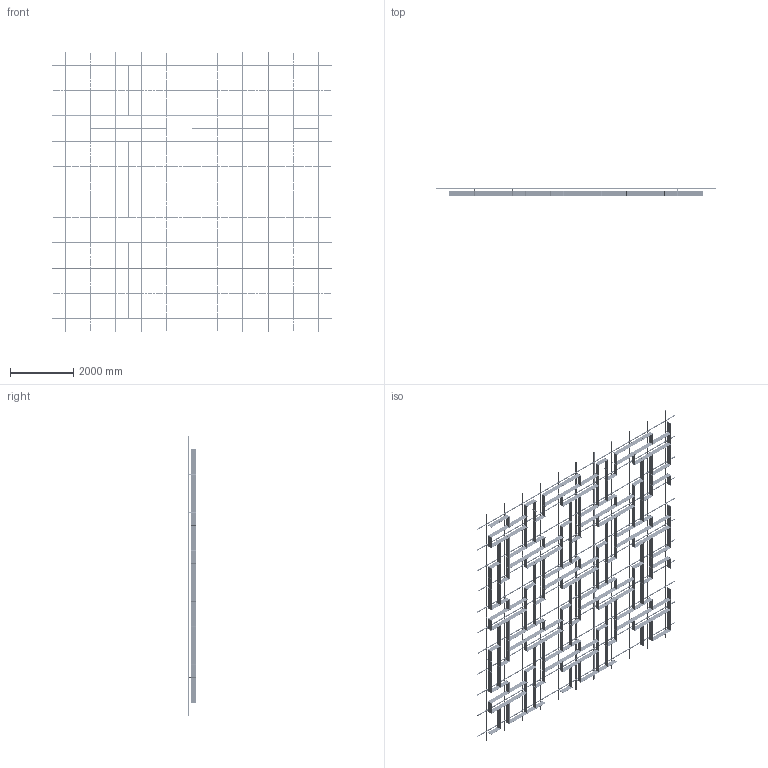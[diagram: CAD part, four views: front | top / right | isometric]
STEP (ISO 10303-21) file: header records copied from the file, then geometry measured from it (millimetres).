
FILE_DESCRIPTION (( 'STEP AP214' ), '1' );
FILE_NAME ('OPT_Var21.STEP', '2024-04-26T08:42:11', ( '' ), ( '' ), 'SwSTEP 2.0', 'SolidWorks 2020', '' );
FILE_SCHEMA (( 'AUTOMOTIVE_DESIGN' ));
Length unit declared in the file: millimetre
Products named in the file (5): Ñèñòåìà â çîíå 8000õ8000; SS.SEMA.2400 - Ñèìà-ïðîôèëü — îáðåçàí 1600; OPT_Var21; Varp21; SS.SEMA.2400 - Ñèìà-ïðîôèëü
Assembly tree (90 placements, depth 3):
  OPT_Var21
    Ñèñòåìà â çîíå 8000õ8000
      SS.SEMA.2400 - Ñèìà-ïðîôèëü  x66
      SS.SEMA.2400 - Ñèìà-ïðîôèëü — îáðåçàí 1600  x22
    Varp21
Bounding box: 8800 x 253 x 8800 mm (x, y, z)
Volume: 221997534.2 mm3; surface area: 88495075.6 mm2
Topology: 1325 solids, 1325 shells, 23302 faces, 60548 edges, 39896 vertices
Faces by surface type: cylinder 13714, plane 9588
Entity records: 190730 total; most frequent: CARTESIAN_POINT 59580, ORIENTED_EDGE 27944, DIRECTION 15958, EDGE_CURVE 13972, VERTEX_POINT 9304, B_SPLINE_CURVE_WITH_KNOTS 9272, AXIS2_PLACEMENT_3D 7730, EDGE_LOOP 7308
